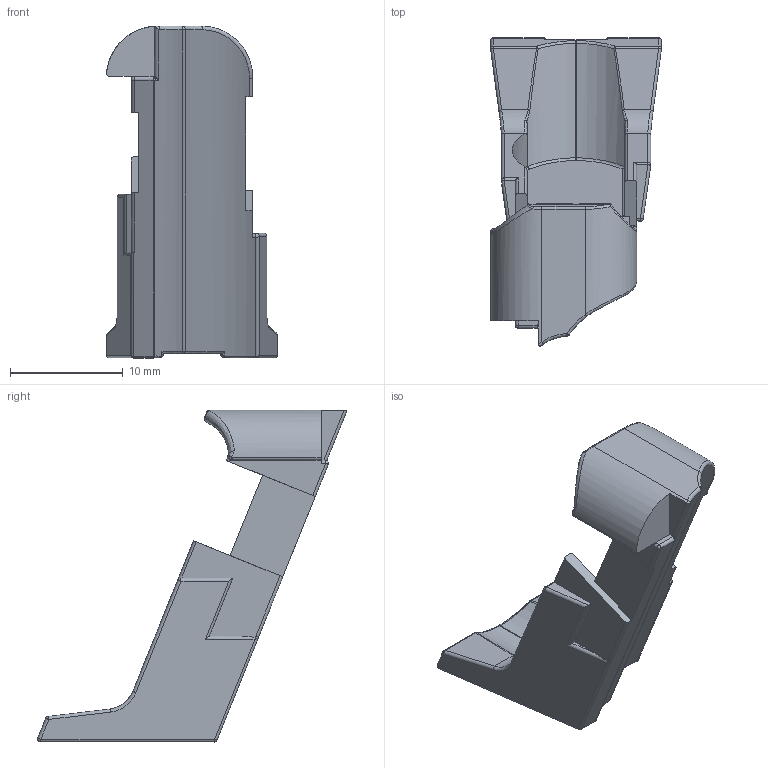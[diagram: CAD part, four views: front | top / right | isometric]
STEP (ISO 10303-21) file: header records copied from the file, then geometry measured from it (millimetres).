
FILE_DESCRIPTION(/* description */ (''),/* implementation_level */ '2;1');
FILE_NAME(/* name */ 'D:/Pew Pews/FGC-9_MkII_Stingray_Edition/Stingray Edition/.step files/4 - Magazine/Magazine Follower.step',/* time_stamp */ '2022-05-12T10:54:29-06:00',/* author */ (''),/* organization */ (''),/* preprocessor_version */ 'ST-DEVELOPER v18.1',/* originating_system */ 'Autodesk Translation Framework v10.10.0.1391',/* authorisation */ '');
FILE_SCHEMA (('AUTOMOTIVE_DESIGN { 1 0 10303 214 3 1 1 }'));
Length unit declared in the file: millimetre
Products named in the file (1): Magazine Follower
Bounding box: 15.16 x 27.41 x 29.46 mm (x, y, z)
Volume: 1681.7 mm3; surface area: 1754.6 mm2
Topology: 1 solids, 1 shells, 175 faces, 440 edges, 264 vertices
Faces by surface type: cylinder 66, plane 44, bspline 42, sphere 20, torus 3
Entity records: 6802 total; most frequent: CARTESIAN_POINT 2688, ORIENTED_EDGE 874, DIRECTION 850, EDGE_CURVE 437, AXIS2_PLACEMENT_3D 341, VERTEX_POINT 264, FACE_OUTER_BOUND 175, EDGE_LOOP 175
